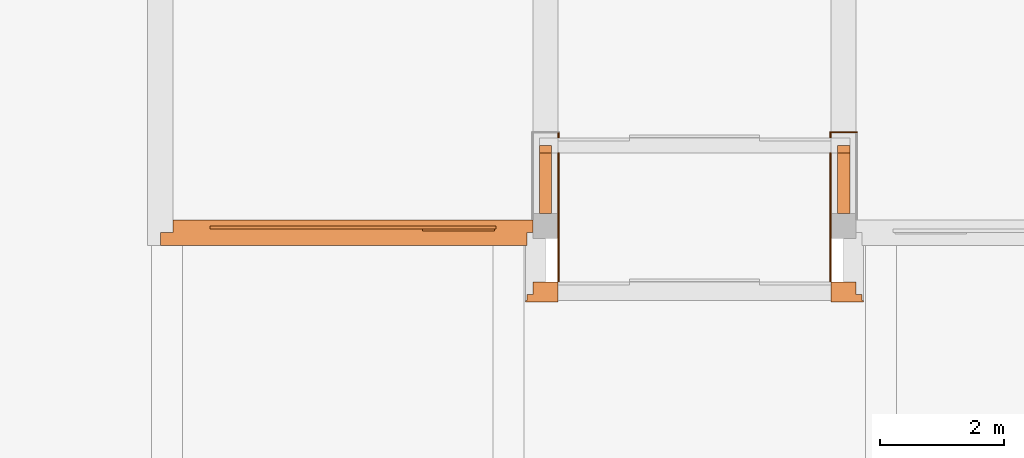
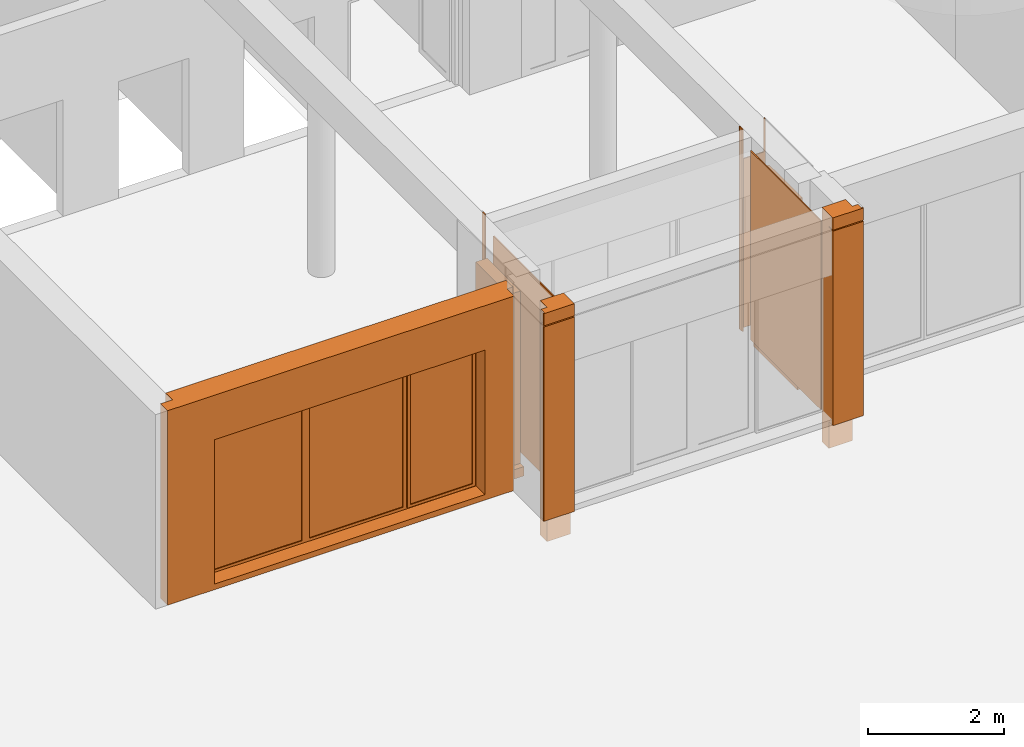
# One storey, part 36 of 46: 11 proxies, 1 opening.
"""IFC2X3 building model written with IfcOpenShell, lengths in millimetres."""

from ifc_helpers import new_model, entity, si_unit, converted_unit, derived_unit, money_unit, direction, frame, origin_with_axes, origin_2d_with_axis, place, context, subcontext, project, spatial, rectangle, extrude, open_shell, faceted_brep, surface_model, material, material_list, type_object, element, fill, save


model = new_model("IFC2X3")

# Units and contexts
model_context = context("Model", 3, precision=0.01, world=origin_with_axes(), true_north=direction((0.34421633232, 0.938890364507)))
body_context = subcontext(model_context, "Body", "Model", "MODEL_VIEW")
ifc_project = project(units=[si_unit("LENGTHUNIT", "METRE", prefix="MILLI"), si_unit("AREAUNIT", "SQUARE_METRE"), si_unit("VOLUMEUNIT", "CUBIC_METRE"), converted_unit("PLANEANGLEUNIT", "DEGREE", entity("IfcPlaneAngleMeasure", 0.0174532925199), si_unit("PLANEANGLEUNIT", "RADIAN"), dimensions=[0, 0, 0, 0, 0, 0, 0]), si_unit("SOLIDANGLEUNIT", "STERADIAN"), money_unit("USD"), converted_unit("TIMEUNIT", "Year", entity("IfcTimeMeasure", 31556926.0), si_unit("TIMEUNIT", "SECOND"), dimensions=[0, 0, 1, 0, 0, 0, 0]), si_unit("MASSUNIT", "GRAM", prefix="KILO"), si_unit("THERMODYNAMICTEMPERATUREUNIT", "DEGREE_CELSIUS"), si_unit("LUMINOUSINTENSITYUNIT", "LUMEN"), si_unit("ENERGYUNIT", "JOULE", prefix="MEGA"), derived_unit("THERMALCONDUCTANCEUNIT", [(si_unit("POWERUNIT", "WATT"), 1), (si_unit("LENGTHUNIT", "METRE"), -1), (si_unit("THERMODYNAMICTEMPERATUREUNIT", "KELVIN"), -1)]), derived_unit("SPECIFICHEATCAPACITYUNIT", [(si_unit("ENERGYUNIT", "JOULE"), 1), (si_unit("MASSUNIT", "GRAM", prefix="KILO"), -1), (si_unit("THERMODYNAMICTEMPERATUREUNIT", "KELVIN"), -1)]), derived_unit("MASSDENSITYUNIT", [(si_unit("MASSUNIT", "GRAM", prefix="KILO"), 1), (si_unit("VOLUMEUNIT", "CUBIC_METRE"), -1)])], contexts=[model_context])

# Site, building, storey
site_placement = place(None, origin_with_axes())
site = spatial("IfcSite", under=ifc_project, at=site_placement, Name="USTRONIE MORSKIE", CompositionType="ELEMENT")
building_placement = place(site_placement, origin_with_axes())
building = spatial("IfcBuilding", under=site, at=building_placement, Name="Budynek", CompositionType="ELEMENT")
storey_placement = place(building_placement, origin_with_axes())
storey = spatial("IfcBuildingStorey", under=building, at=storey_placement, Name="PARTER", CompositionType="ELEMENT", Elevation=0.0)

# Proxies, opening
ifc_material_1 = material(Name="Beton konstrukcyjny B25")
ifc_material_2 = material(Name="Wełna ELEW")
ifc_material_3 = material(Name="Tynk zewnętrzny")
ifc_material_list_1 = material_list([ifc_material_1, ifc_material_2, ifc_material_3])
building_element_proxy_type_1 = type_object("IfcBuildingElementProxyType", Name="20+20 410", PredefinedType="NOTDEFINED")
proxy_1_placement = place(storey_placement, frame((379317.920919, 721001.199036, -230.0), z_axis=(0.0, 0.0, 1.0), x_axis=(1.0, 0.0, 0.0)))
proxy_1 = element("IfcBuildingElementProxy", 1, at=proxy_1_placement, inside=storey, type_object=building_element_proxy_type_1, material=ifc_material_list_1, Name="SZ-01", context=body_context, shape_type="Brep", body=[
    faceted_brep([(5900.0, 100.0, 0.0), (5900.0, -100.0, 0.0), (100.0, -100.0, 0.0), (100.0, 100.0, 0.0), (5900.0, 100.0, 3630.0), (5900.0, -100.0, 3630.0), (100.0, -100.0, 3630.0), (100.0, 100.0, 3630.0)], [[[0, 1, 2, 3]], [[1, 0, 4, 5]], [[1, 5, 6, 2]], [[7, 3, 2, 6]], [[4, 0, 3, 7]], [[5, 4, 7, 6]]]),
    faceted_brep([(5800.0, -300.0, 130.0), (5800.0, -100.006562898, 130.0), (5800.0, -100.0, 3630.0), (5800.0, -300.0, 3630.0), (-100.0, -100.006562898, 130.0), (-100.0, -300.0, 130.0), (-100.0, -100.0, 3630.0), (-100.0, -300.0, 3630.0)], [[[0, 1, 2, 3]], [[4, 1, 0, 5]], [[1, 4, 6, 2]], [[3, 2, 6, 7]], [[5, 0, 3, 7]], [[4, 5, 7, 6]]]),
    faceted_brep([(5800.0, -310.0, 130.0), (5800.0, -300.0, 130.0), (5800.0, -300.0, 3630.0), (5800.0, -310.0, 3630.0), (-100.0, -300.0, 130.0), (-100.0, -310.0, 130.0), (-100.0, -300.0, 3630.0), (-100.0, -310.0, 3630.0)], [[[0, 1, 2, 3]], [[4, 1, 0, 5]], [[1, 4, 6, 2]], [[3, 2, 6, 7]], [[5, 0, 3, 7]], [[4, 5, 7, 6]]]),
])
opening_placement = place(proxy_1_placement, frame((2999.9755227, 0.0, 230.0), z_axis=(0.0, 0.0, 1.0), x_axis=(1.0, 0.0, 0.0)))
opening = element("IfcOpeningElement", 2, at=opening_placement, cuts=proxy_1, Name="Okna-004", context=body_context, shape_type="SweptSolid", body=[
    extrude(rectangle(XDim=4599.99285263, YDim=2600.0, at=origin_2d_with_axis()), frame((0.0, 0.0, 1300.0), z_axis=(0.0, 1.0, 0.0), x_axis=(-1.0, 0.0, 0.0)), (0.0, 0.0, -1.0), 720.0),
    extrude(rectangle(XDim=4599.99285263, YDim=2600.0, at=origin_2d_with_axis()), frame((0.0, 0.0, 1300.0), z_axis=(0.0, -1.0, 0.0), x_axis=(-1.0, 0.0, 0.0)), (0.0, 0.0, -1.0), 510.0),
])
building_element_proxy_type_2 = type_object("IfcBuildingElementProxyType", Name="Okno potrójne 23", PredefinedType="NOTDEFINED")
proxy_2_placement = place(opening_placement, frame((2299.99642632, 0.0, 0.0), z_axis=(0.0, 0.0, 1.0), x_axis=(-1.0, 0.0, 0.0)))
proxy_2 = element("IfcBuildingElementProxy", 3, at=proxy_2_placement, inside=storey, type_object=building_element_proxy_type_2, Name="Okna-004", context=body_context, shape_type="SurfaceModel", body=[
    faceted_brep([(25.0, 50.0, 2550.0), (0.0, 50.0, 2550.0), (0.0, 0.0, 2550.0), (50.0, 0.0, 2550.0), (50.0, 25.0, 2550.0), (25.0, 25.0, 2550.0), (25.0, 50.0, 50.0), (0.0, 50.0, 50.0), (0.0, 0.0, 50.0), (50.0, 0.0, 50.0), (50.0, 25.0, 50.0), (25.0, 25.0, 50.0)], [[[0, 1, 2, 3, 4, 5]], [[6, 7, 1, 0]], [[1, 7, 8, 2]], [[2, 8, 9, 3]], [[4, 3, 9, 10]], [[10, 11, 5, 4]], [[5, 11, 6, 0]], [[11, 10, 9, 8, 7, 6]]]),
    faceted_brep([(1157.89407867, 25.0, 2550.0), (1157.89407867, 0.0, 2550.0), (1243.89407867, 0.0, 2550.0), (1243.89407867, 50.0, 2550.0), (1182.89407867, 50.0, 2550.0), (1182.89407867, 25.0, 2550.0), (1157.89407867, 25.0, 50.0), (1157.89407867, 0.0, 50.0), (1243.89407867, 0.0, 50.0), (1243.89407867, 50.0, 50.0), (1182.89407867, 50.0, 50.0), (1182.89407867, 25.0, 50.0)], [[[0, 1, 2, 3, 4, 5]], [[6, 7, 1, 0]], [[1, 7, 8, 2]], [[9, 3, 2, 8]], [[4, 3, 9, 10]], [[10, 11, 5, 4]], [[5, 11, 6, 0]], [[11, 10, 9, 8, 7, 6]]]),
    faceted_brep([(1157.89407867, 25.0, 50.0), (1157.89407867, 0.0, 50.0), (1243.89407867, 0.0, 50.0), (1243.89407867, 50.0, 50.0), (1182.89407867, 50.0, 50.0), (1182.89407867, 25.0, 50.0), (50.0, 25.0, 50.0), (50.0, 0.0, 50.0), (0.0, 0.0, 50.0), (0.0, 0.0, 0.0), (4599.99285263, 0.0, 0.0), (4599.99285263, 0.0, 50.0), (4549.99285263, 0.0, 50.0), (2962.49285056, 0.0, 50.0), (2837.49285056, 0.0, 50.0), (2837.49285056, 50.0, 50.0), (25.0, 50.0, 25.0), (1182.89407867, 50.0, 25.0), (2962.49285056, 50.0, 50.0), (4549.99285263, 50.0, 50.0), (4599.99285263, 50.0, 50.0), (4599.99285263, 50.0, 0.0), (0.0, 50.0, 0.0), (0.0, 50.0, 50.0), (25.0, 50.0, 50.0), (1182.89407867, 25.0, 25.0), (25.0, 25.0, 25.0), (25.0, 25.0, 50.0)], [[[0, 1, 2, 3, 4, 5]], [[6, 7, 1, 0]], [[8, 9, 10, 11, 12, 13, 14, 2, 1, 7]], [[15, 3, 2, 14]], [[16, 17, 4, 3, 15, 18, 19, 20, 21, 22, 23, 24]], [[17, 25, 5, 4]], [[5, 25, 26, 27, 6, 0]], [[27, 24, 23, 8, 7, 6]], [[23, 22, 9, 8]], [[22, 21, 10, 9]], [[21, 20, 11, 10]], [[20, 19, 12, 11]], [[19, 18, 13, 12]], [[18, 15, 14, 13]], [[16, 26, 25, 17]], [[27, 26, 16, 24]]]),
    faceted_brep([(25.0, 50.0, 2550.0), (0.0, 50.0, 2550.0), (0.0, 50.0, 2600.0), (4599.99285263, 50.0, 2600.0), (4599.99285263, 50.0, 2550.0), (4549.99285263, 50.0, 2550.0), (2962.49285056, 50.0, 2550.0), (2837.49285056, 50.0, 2550.0), (1243.89407867, 50.0, 2550.0), (1182.89407867, 50.0, 2550.0), (1182.89407867, 50.0, 2575.0), (25.0, 50.0, 2575.0), (25.0, 25.0, 2550.0), (50.0, 25.0, 2550.0), (50.0, 0.0, 2550.0), (0.0, 0.0, 2550.0), (0.0, 0.0, 2600.0), (4599.99285263, 0.0, 2600.0), (4599.99285263, 0.0, 2550.0), (4549.99285263, 0.0, 2550.0), (2962.49285056, 0.0, 2550.0), (2837.49285056, 0.0, 2550.0), (1243.89407867, 0.0, 2550.0), (1182.89407867, 25.0, 2550.0), (1157.89407867, 0.0, 2550.0), (1157.89407867, 25.0, 2550.0), (1182.89407867, 25.0, 2575.0), (25.0, 25.0, 2575.0)], [[[0, 1, 2, 3, 4, 5, 6, 7, 8, 9, 10, 11]], [[12, 13, 14, 15, 1, 0]], [[2, 1, 15, 16]], [[3, 2, 16, 17]], [[4, 3, 17, 18]], [[5, 4, 18, 19]], [[6, 5, 19, 20]], [[7, 6, 20, 21]], [[8, 7, 21, 22]], [[23, 9, 8, 22, 24, 25]], [[9, 23, 26, 10]], [[10, 26, 27, 11]], [[11, 27, 12, 0]], [[25, 13, 12, 27, 26, 23]], [[25, 24, 14, 13]], [[22, 21, 20, 19, 18, 17, 16, 15, 14, 24]]]),
    faceted_brep([(4549.99285263, 0.0, 50.0), (4549.99285263, 50.0, 50.0), (4599.99285263, 50.0, 50.0), (4599.99285263, 0.0, 50.0), (4549.99285263, 0.0, 2550.0), (4549.99285263, 50.0, 2550.0), (4599.99285263, 50.0, 2550.0), (4599.99285263, 0.0, 2550.0)], [[[0, 1, 2, 3]], [[4, 5, 1, 0]], [[1, 5, 6, 2]], [[3, 2, 6, 7]], [[0, 3, 7, 4]], [[7, 6, 5, 4]]]),
    faceted_brep([(2837.49285056, 0.0, 50.0), (2837.49285056, 50.0, 50.0), (2962.49285056, 50.0, 50.0), (2962.49285056, 0.0, 50.0), (2837.49285056, 0.0, 2550.0), (2837.49285056, 50.0, 2550.0), (2962.49285056, 50.0, 2550.0), (2962.49285056, 0.0, 2550.0)], [[[0, 1, 2, 3]], [[4, 5, 1, 0]], [[1, 5, 6, 2]], [[3, 2, 6, 7]], [[0, 3, 7, 4]], [[7, 6, 5, 4]]]),
    faceted_brep([(75.0, 25.0, 2525.0), (75.0, 74.9999999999, 2525.0), (25.0, 74.9999999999, 2525.0), (25.0, 25.0, 2525.0), (75.0, 25.0, 75.0), (75.0, 74.9999999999, 75.0), (25.0, 74.9999999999, 75.0), (25.0, 25.0, 75.0)], [[[0, 1, 2, 3]], [[4, 5, 1, 0]], [[1, 5, 6, 2]], [[3, 2, 6, 7]], [[0, 3, 7, 4]], [[7, 6, 5, 4]]]),
    faceted_brep([(1132.89407867, 25.0, 75.0), (1132.89407867, 74.9999999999, 75.0), (1182.89407867, 74.9999999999, 75.0), (1182.89407867, 25.0, 75.0), (1132.89407867, 25.0, 2525.0), (1132.89407867, 74.9999999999, 2525.0), (1182.89407867, 74.9999999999, 2525.0), (1182.89407867, 25.0, 2525.0)], [[[0, 1, 2, 3]], [[4, 5, 1, 0]], [[1, 5, 6, 2]], [[3, 2, 6, 7]], [[0, 3, 7, 4]], [[7, 6, 5, 4]]]),
    faceted_brep([(1182.89407867, 25.0, 25.0), (1182.89407867, 74.9999999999, 25.0), (1182.89407867, 74.9999999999, 75.0), (1182.89407867, 25.0, 75.0), (25.0, 25.0, 25.0), (25.0, 74.9999999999, 25.0), (25.0, 74.9999999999, 75.0), (75.0, 74.9999999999, 75.0), (1132.89407867, 74.9999999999, 75.0), (1132.89407867, 25.0, 75.0), (75.0, 25.0, 75.0), (25.0, 25.0, 75.0)], [[[0, 1, 2, 3]], [[4, 5, 1, 0]], [[1, 5, 6, 7, 8, 2]], [[3, 2, 8, 9]], [[0, 3, 9, 10, 11, 4]], [[11, 6, 5, 4]], [[10, 7, 6, 11]], [[9, 8, 7, 10]]]),
    faceted_brep([(25.0, 25.0, 2575.0), (25.0, 74.9999999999, 2575.0), (25.0, 74.9999999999, 2525.0), (25.0, 25.0, 2525.0), (1182.89407867, 25.0, 2575.0), (1182.89407867, 74.9999999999, 2575.0), (1182.89407867, 74.9999999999, 2525.0), (1132.89407867, 74.9999999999, 2525.0), (75.0, 74.9999999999, 2525.0), (75.0, 25.0, 2525.0), (1132.89407867, 25.0, 2525.0), (1182.89407867, 25.0, 2525.0)], [[[0, 1, 2, 3]], [[4, 5, 1, 0]], [[1, 5, 6, 7, 8, 2]], [[3, 2, 8, 9]], [[0, 3, 9, 10, 11, 4]], [[11, 6, 5, 4]], [[10, 7, 6, 11]], [[9, 8, 7, 10]]]),
    surface_model("IfcShellBasedSurfaceModel", [(75.0, 40.0, 75.0), (1132.89407867, 40.0, 75.0), (1132.89407867, 40.0, 2525.0), (75.0, 40.0, 2525.0)], [open_shell([[[0, 1, 2, 3]]])]),
    surface_model("IfcShellBasedSurfaceModel", [(75.0, 59.9999999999, 75.0), (75.0, 59.9999999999, 2525.0), (1132.89407867, 59.9999999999, 2525.0), (1132.89407867, 59.9999999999, 75.0)], [open_shell([[[0, 1, 2, 3]]])]),
    surface_model("IfcShellBasedSurfaceModel", [(1243.89407867, 15.0, 50.0), (2837.49285056, 15.0, 50.0), (2837.49285056, 15.0, 2550.0), (1243.89407867, 15.0, 2550.0)], [open_shell([[[0, 1, 2, 3]]])]),
    surface_model("IfcShellBasedSurfaceModel", [(1243.89407867, 35.0, 50.0), (1243.89407867, 35.0, 2550.0), (2837.49285056, 35.0, 2550.0), (2837.49285056, 35.0, 50.0)], [open_shell([[[0, 1, 2, 3]]])]),
    surface_model("IfcShellBasedSurfaceModel", [(2962.49285056, 15.0, 50.0), (4549.99285263, 15.0, 50.0), (4549.99285263, 15.0, 2550.0), (2962.49285056, 15.0, 2550.0)], [open_shell([[[0, 1, 2, 3]]])]),
    surface_model("IfcShellBasedSurfaceModel", [(2962.49285056, 35.0, 50.0), (2962.49285056, 35.0, 2550.0), (4549.99285263, 35.0, 2550.0), (4549.99285263, 35.0, 50.0)], [open_shell([[[0, 1, 2, 3]]])]),
])
fill(opening, proxy_2)

# Proxies
ifc_material_4 = material(Name="Laminat")
ifc_material_5 = material(Name="Płyty styropianowe twarde")
ifc_material_list_2 = material_list([ifc_material_4, ifc_material_5, ifc_material_1])
building_element_proxy_type_3 = type_object("IfcBuildingElementProxyType", Name="20+8+2 320", PredefinedType="NOTDEFINED")
proxy_3_placement = place(storey_placement, frame((385617.920919, 720001.199036, -580.0), z_axis=(0.0, 0.0, 1.0), x_axis=(-1.0, 0.0, 0.0)))
element("IfcBuildingElementProxy", 4, at=proxy_3_placement, inside=storey, type_object=building_element_proxy_type_3, material=ifc_material_list_2, Name="Œciana-006", context=body_context, shape_type="Brep", body=[
    faceted_brep([(520.0, 200.0, 3979.99999896), (0.0, 200.0, 3979.99999896), (0.0, 200.0, 480.0), (520.0, 200.0, 480.0), (0.0, 220.0, 3979.99999896), (520.0, 220.0, 3979.99999896), (0.0, 220.0, 480.0), (520.0, 220.0, 480.0)], [[[0, 1, 2, 3]], [[4, 1, 0, 5]], [[1, 4, 6, 2]], [[7, 3, 2, 6]], [[5, 0, 3, 7]], [[4, 5, 7, 6]]]),
    faceted_brep([(0.0, 220.0, 4000.00000545), (0.0, 200.0, 4000.00000545), (0.0, 200.0, 4220.0), (0.0, 220.0, 4220.0), (520.0, 200.0, 4000.00000545), (520.0, 220.0, 4000.00000545), (520.0, 200.0, 4220.0), (520.0, 220.0, 4220.0)], [[[0, 1, 2, 3]], [[4, 1, 0, 5]], [[1, 4, 6, 2]], [[2, 6, 7, 3]], [[5, 0, 3, 7]], [[4, 5, 7, 6]]]),
    faceted_brep([(500.0, 100.0, 3979.99999896), (0.0, 99.9999998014, 3979.99999896), (0.0, 99.9999969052, 480.0), (200.0, 99.9999969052, 480.0), (500.0, 100.0, 480.0), (0.0, 200.0, 3979.99999896), (500.0, 200.0, 3979.99999896), (0.0, 200.0, 480.0), (500.0, 200.0, 480.0)], [[[0, 1, 2, 3, 4]], [[5, 1, 0, 6]], [[1, 5, 7, 2]], [[4, 3, 2, 7, 8]], [[6, 0, 4, 8]], [[5, 6, 8, 7]]]),
    faceted_brep([(0.0, 200.0, 4000.00000545), (0.0, 99.999999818, 4000.00000545), (0.0, 100.0, 4220.0), (0.0, 200.0, 4220.0), (500.0, 100.0, 4000.00000545), (500.0, 200.0, 4000.00000545), (500.0, 100.0, 4220.0), (500.0, 200.0, 4220.0)], [[[0, 1, 2, 3]], [[4, 1, 0, 5]], [[1, 4, 6, 2]], [[2, 6, 7, 3]], [[5, 0, 3, 7]], [[4, 5, 7, 6]]]),
    faceted_brep([(400.0, -100.0, 4220.0), (400.0, 100.0, 4220.0), (0.0, 100.0, 4220.0), (0.0, -100.0, 4220.0), (400.0, -100.0, 0.0), (400.0, 100.0, 0.0), (0.0, 100.0, 0.0), (0.0, -100.0, 0.0)], [[[0, 1, 2, 3]], [[1, 0, 4, 5]], [[1, 5, 6, 2]], [[7, 3, 2, 6]], [[4, 0, 3, 7]], [[5, 4, 7, 6]]]),
])
proxy_4_placement = place(storey_placement, frame((390317.920919, 720001.199036, -580.0), z_axis=(0.0, 0.0, 1.0), x_axis=(-1.0, 0.0, 0.0)))
element("IfcBuildingElementProxy", 5, at=proxy_4_placement, inside=storey, type_object=building_element_proxy_type_3, material=ifc_material_list_2, Name="Œciana-006", context=body_context, shape_type="Brep", body=[
    faceted_brep([(300.0, 200.0, 3979.99999896), (-220.0, 200.0, 3979.99999896), (-220.0, 200.0, 480.0), (300.0, 200.0, 480.0), (-220.0, 220.0, 3979.99999896), (300.0, 220.0, 3979.99999896), (-220.0, 220.0, 480.0), (300.0, 220.0, 480.0)], [[[0, 1, 2, 3]], [[4, 1, 0, 5]], [[1, 4, 6, 2]], [[7, 3, 2, 6]], [[5, 0, 3, 7]], [[4, 5, 7, 6]]]),
    faceted_brep([(-220.0, 220.0, 4000.00000545), (-220.0, 200.0, 4000.00000545), (-220.0, 200.0, 4220.0), (-220.0, 220.0, 4220.0), (300.0, 200.0, 4000.00000545), (300.0, 220.0, 4000.00000545), (300.0, 200.0, 4220.0), (300.0, 220.0, 4220.0)], [[[0, 1, 2, 3]], [[4, 1, 0, 5]], [[1, 4, 6, 2]], [[3, 2, 6, 7]], [[5, 0, 3, 7]], [[4, 5, 7, 6]]]),
    faceted_brep([(300.0, 99.9999998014, 3979.99999896), (-200.0, 100.0, 3979.99999896), (-200.0, 100.0, 480.0), (100.0, 99.9999969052, 480.0), (300.0, 99.9999969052, 480.0), (-200.0, 200.0, 3979.99999896), (300.0, 200.0, 3979.99999896), (-200.0, 200.0, 480.0), (300.0, 200.0, 480.0)], [[[0, 1, 2, 3, 4]], [[5, 1, 0, 6]], [[1, 5, 7, 2]], [[4, 3, 2, 7, 8]], [[6, 0, 4, 8]], [[5, 6, 8, 7]]]),
    faceted_brep([(-200.0, 200.0, 4000.00000545), (-200.0, 100.0, 4000.00000545), (-200.0, 100.0, 4220.0), (-200.0, 200.0, 4220.0), (300.0, 99.999999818, 4000.00000545), (300.0, 200.0, 4000.00000545), (300.0, 100.0, 4220.0), (300.0, 200.0, 4220.0)], [[[0, 1, 2, 3]], [[4, 1, 0, 5]], [[1, 4, 6, 2]], [[3, 2, 6, 7]], [[5, 0, 3, 7]], [[4, 5, 7, 6]]]),
    faceted_brep([(-100.0, -100.0, 4220.0), (300.0, -100.0, 4220.0), (300.0, 100.0, 4220.0), (-100.0, 100.0, 4220.0), (-100.0, -100.0, 0.0), (300.0, -100.0, 0.0), (300.0, 100.0, 0.0), (-100.0, 100.0, 0.0)], [[[0, 1, 2, 3]], [[4, 5, 1, 0]], [[2, 1, 5, 6]], [[3, 2, 6, 7]], [[4, 0, 3, 7]], [[7, 6, 5, 4]]]),
])
ifc_material_6 = material(Name="Bloczki silikatowe")
building_element_proxy_type_4 = type_object("IfcBuildingElementProxyType", Name="Bloczki silikatowe 200", PredefinedType="NOTDEFINED")
proxy_5_placement = place(storey_placement, frame((390217.920919, 722301.199036, -230.0), z_axis=(0.0, 0.0, 1.0), x_axis=(0.0, -1.0, 0.0)))
element("IfcBuildingElementProxy", 6, at=proxy_5_placement, inside=storey, type_object=building_element_proxy_type_4, material=ifc_material_6, Name="SW-01", context=body_context, shape_type="Brep", body=[
    faceted_brep([(120.0, -100.0, 3270.0), (1100.0, -100.0, 3270.0), (1100.0, 100.0, 3270.0), (120.0, 100.0, 3270.0), (1300.0, -100.0, 170.0), (1100.0, -100.0, 170.0), (120.0, -100.0, 230.0), (0.0, -100.0, 230.0), (0.0, -100.0, 0.0), (1300.0, -100.0, 0.0), (1100.0, 100.0, 170.0), (1300.0, 100.0, 170.0), (1300.0, 100.0, 0.0), (0.0, 100.0, 0.0), (0.0, 100.0, 230.0), (120.0, 100.0, 230.0)], [[[0, 1, 2, 3]], [[4, 5, 1, 0, 6, 7, 8, 9]], [[5, 10, 2, 1]], [[2, 10, 11, 12, 13, 14, 15, 3]], [[15, 6, 0, 3]], [[4, 11, 10, 5]], [[15, 14, 7, 6]], [[7, 14, 13, 8]], [[13, 12, 9, 8]], [[12, 11, 4, 9]]]),
])
proxy_6_placement = place(storey_placement, frame((385417.920919, 722301.199036, -230.0), z_axis=(0.0, 0.0, 1.0), x_axis=(0.0, -1.0, 0.0)))
element("IfcBuildingElementProxy", 7, at=proxy_6_placement, inside=storey, type_object=building_element_proxy_type_4, material=ifc_material_6, Name="SW-01", context=body_context, shape_type="Brep", body=[
    faceted_brep([(120.0, -100.0, 3270.0), (1100.0, -100.0, 3270.0), (1100.0, 100.0, 3270.0), (120.0, 100.0, 3270.0), (1199.47035987, -100.0, 170.0), (1100.0, -100.0, 170.0), (120.0, -100.0, 230.0), (0.0, -100.0, 230.0), (0.0, -100.0, 0.0), (1199.47035987, -100.0, 0.0), (1100.0, 100.0, 170.0), (1199.47035987, 100.0, 170.0), (1199.47035987, 100.0, 0.0), (0.0, 100.0, 0.0), (0.0, 100.0, 230.0), (120.0, 100.0, 230.0)], [[[0, 1, 2, 3]], [[4, 5, 1, 0, 6, 7, 8, 9]], [[5, 10, 2, 1]], [[2, 10, 11, 12, 13, 14, 15, 3]], [[15, 6, 0, 3]], [[4, 11, 10, 5]], [[14, 7, 6, 15]], [[14, 13, 8, 7]], [[8, 13, 12, 9]], [[12, 11, 4, 9]]]),
])
building_element_proxy_type_5 = type_object("IfcBuildingElementProxyType", Name="Laminat 20", PredefinedType="NOTDEFINED")
proxy_7_placement = place(storey_placement, frame((390017.920919, 722501.199036, 0.0), z_axis=(0.0, 0.0, 1.0), x_axis=(0.0, -1.0, 0.0)))
element("IfcBuildingElementProxy", 8, at=proxy_7_placement, inside=storey, type_object=building_element_proxy_type_5, material=ifc_material_4, Name="Œciana-006", context=body_context, shape_type="Brep", body=[
    faceted_brep([(0.0, 0.0, 3640.0), (0.0, -20.0, 3640.0), (79.9999999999, -20.0, 3640.0), (79.9999999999, 0.0, 3640.0), (0.0, 0.0, 0.0), (0.0, -20.0, 0.0), (79.9999999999, -20.0, 0.0), (79.9999999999, 0.0, 0.0)], [[[0, 1, 2, 3]], [[4, 5, 1, 0]], [[1, 5, 6, 2]], [[7, 3, 2, 6]], [[4, 0, 3, 7]], [[5, 4, 7, 6]]]),
])
proxy_8_placement = place(storey_placement, frame((385617.920919, 722501.199036, 0.0), z_axis=(0.0, 0.0, 1.0), x_axis=(0.0, -1.0, 0.0)))
element("IfcBuildingElementProxy", 9, at=proxy_8_placement, inside=storey, type_object=building_element_proxy_type_5, material=ifc_material_4, Name="Œciana-006", context=body_context, shape_type="Brep", body=[
    faceted_brep([(0.0, 0.0, 0.0), (0.0, 20.0, 0.0), (79.9999999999, 20.0, 0.0), (79.9999999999, 0.0, 0.0), (0.0, 0.0, 3640.0), (0.0, 20.0, 3640.0), (79.9999999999, 20.0, 3640.0), (79.9999999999, 0.0, 3640.0)], [[[0, 1, 2, 3]], [[4, 5, 1, 0]], [[1, 5, 6, 2]], [[7, 3, 2, 6]], [[4, 0, 3, 7]], [[5, 4, 7, 6]]]),
])
proxy_9_placement = place(storey_placement, frame((385537.920919, 722181.199036, 0.0), z_axis=(0.0, 0.0, 1.0), x_axis=(0.0, -1.0, 0.0)))
element("IfcBuildingElementProxy", 10, at=proxy_9_placement, inside=storey, type_object=building_element_proxy_type_5, material=ifc_material_4, Name="Œciana-006", context=body_context, shape_type="Brep", body=[
    faceted_brep([(0.0, 100.0, 3400.0), (0.0, 80.0, 3400.0), (2080.0, 80.0, 3400.0), (2080.0, 100.0, 3400.0), (0.0, 100.0, 0.0), (0.0, 80.0, 0.0), (2080.0, 80.0, 0.0), (2080.0, 100.0, 0.0)], [[[0, 1, 2, 3]], [[4, 5, 1, 0]], [[1, 5, 6, 2]], [[7, 3, 2, 6]], [[4, 0, 3, 7]], [[5, 4, 7, 6]]]),
])
proxy_10_placement = place(storey_placement, frame((390097.920919, 722181.199036, 0.0), z_axis=(0.0, 0.0, 1.0), x_axis=(0.0, -1.0, 0.0)))
element("IfcBuildingElementProxy", 11, at=proxy_10_placement, inside=storey, type_object=building_element_proxy_type_5, material=ifc_material_4, Name="Œciana-006", context=body_context, shape_type="Brep", body=[
    faceted_brep([(0.0, -100.0, 0.0), (0.0, -80.0, 0.0), (2080.0, -80.0, 0.0), (2080.0, -100.0, 0.0), (0.0, -100.0, 3400.0), (0.0, -80.0, 3400.0), (2080.0, -80.0, 3400.0), (2080.0, -100.0, 3400.0)], [[[0, 1, 2, 3]], [[4, 5, 1, 0]], [[1, 5, 6, 2]], [[7, 3, 2, 6]], [[4, 0, 3, 7]], [[5, 4, 7, 6]]]),
])
proxy_11_placement = place(storey_placement, frame((390417.920919, 722501.199036, 0.0), z_axis=(0.0, 0.0, 1.0), x_axis=(-1.0, 0.0, 0.0)))
element("IfcBuildingElementProxy", 12, at=proxy_11_placement, inside=storey, type_object=building_element_proxy_type_5, material=ifc_material_4, Name="Œciana-006", context=body_context, shape_type="Brep", body=[
    faceted_brep([(400.0, -20.0, 3640.0), (400.0, -20.0, 3040.0), (0.0, -20.0, 3040.0), (0.0, -20.0, 3640.0), (-20.0, -20.0, 3640.0), (-20.0, -20.0, 0.0), (420.0, -20.0, 0.0), (420.0, -20.0, 3640.0), (400.0, 0.0, 3040.0), (400.0, 0.0, 3640.0), (0.0, 0.0, 3040.0), (0.0, 0.0, 3640.0), (-20.0, 0.0, 3640.0), (-20.0, 0.0, 0.0), (420.0, 0.0, 0.0), (420.0, 0.0, 3640.0)], [[[0, 1, 2, 3, 4, 5, 6, 7]], [[8, 1, 0, 9]], [[10, 2, 1, 8]], [[10, 11, 3, 2]], [[4, 3, 11, 12]], [[13, 5, 4, 12]], [[13, 14, 6, 5]], [[14, 15, 7, 6]], [[15, 9, 0, 7]], [[10, 8, 9, 15, 14, 13, 12, 11]]]),
])

save(model, "model.ifc")
